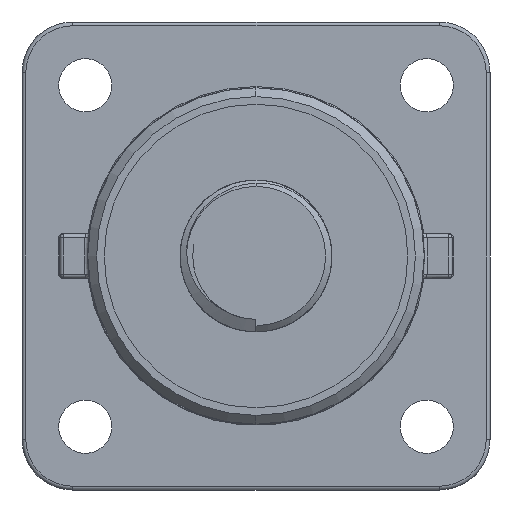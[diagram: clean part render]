
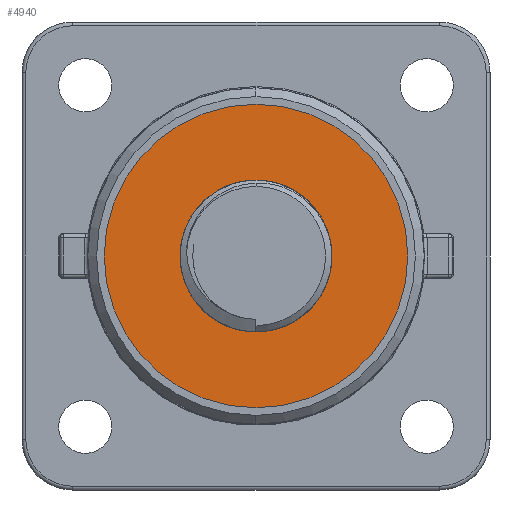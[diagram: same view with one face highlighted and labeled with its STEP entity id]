
A CAD part, front view. The second image highlights one B-rep face of the part: STEP entity #4940.
In plain terms, the highlighted planar face has unit normal (0, -1, 0).
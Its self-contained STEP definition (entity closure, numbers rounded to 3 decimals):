
#456 = CIRCLE ( 'NONE', #11264, 5. ) ;
#1007 = FACE_OUTER_BOUND ( 'NONE', #6588, .T. ) ;
#1212 = EDGE_LOOP ( 'NONE', ( #8308, #7183 ) ) ;
#1624 = PLANE ( 'NONE',  #5364 ) ;
#2055 = DIRECTION ( 'NONE',  ( 0., 1., 0. ) ) ;
#2452 = VERTEX_POINT ( 'NONE', #2687 ) ;
#2687 = CARTESIAN_POINT ( 'NONE',  ( 0., -19.7, -5. ) ) ;
#2700 = AXIS2_PLACEMENT_3D ( 'NONE', #3824, #9401, #7151 ) ;
#2829 = VERTEX_POINT ( 'NONE', #7458 ) ;
#2915 = EDGE_CURVE ( 'NONE', #2452, #11375, #3623, .T. ) ;
#3224 = CARTESIAN_POINT ( 'NONE',  ( 0., -19.7, 0. ) ) ;
#3562 = CARTESIAN_POINT ( 'NONE',  ( 0., -19.7, 5. ) ) ;
#3623 = CIRCLE ( 'NONE', #8789, 5. ) ;
#3824 = CARTESIAN_POINT ( 'NONE',  ( 0., -19.7, 0. ) ) ;
#3862 = EDGE_CURVE ( 'NONE', #2829, #13303, #12931, .T. ) ;
#4336 = DIRECTION ( 'NONE',  ( 0., 0., -1. ) ) ;
#4940 = ADVANCED_FACE ( 'NONE', ( #1007, #12548 ), #1624, .T. ) ;
#5364 = AXIS2_PLACEMENT_3D ( 'NONE', #10383, #6616, #7655 ) ;
#6367 = DIRECTION ( 'NONE',  ( 0., 1., 0. ) ) ;
#6414 = CARTESIAN_POINT ( 'NONE',  ( 0., -19.7, 12. ) ) ;
#6588 = EDGE_LOOP ( 'NONE', ( #14249, #8268 ) ) ;
#6616 = DIRECTION ( 'NONE',  ( 0., -1., 0. ) ) ;
#7151 = DIRECTION ( 'NONE',  ( 0., 0., -1. ) ) ;
#7183 = ORIENTED_EDGE ( 'NONE', *, *, #2915, .T. ) ;
#7458 = CARTESIAN_POINT ( 'NONE',  ( 0., -19.7, -12. ) ) ;
#7655 = DIRECTION ( 'NONE',  ( 0., 0., -1. ) ) ;
#8268 = ORIENTED_EDGE ( 'NONE', *, *, #3862, .T. ) ;
#8308 = ORIENTED_EDGE ( 'NONE', *, *, #11650, .T. ) ;
#8744 = CARTESIAN_POINT ( 'NONE',  ( 0., -19.7, 0. ) ) ;
#8789 = AXIS2_PLACEMENT_3D ( 'NONE', #14516, #6367, #11071 ) ;
#9401 = DIRECTION ( 'NONE',  ( 0., -1., 0. ) ) ;
#9447 = AXIS2_PLACEMENT_3D ( 'NONE', #3224, #11032, #4336 ) ;
#9802 = EDGE_CURVE ( 'NONE', #13303, #2829, #11756, .T. ) ;
#9871 = DIRECTION ( 'NONE',  ( 0., 0., 1. ) ) ;
#10383 = CARTESIAN_POINT ( 'NONE',  ( 0., -19.7, 0. ) ) ;
#11032 = DIRECTION ( 'NONE',  ( 0., -1., 0. ) ) ;
#11071 = DIRECTION ( 'NONE',  ( 0., 0., 1. ) ) ;
#11264 = AXIS2_PLACEMENT_3D ( 'NONE', #8744, #2055, #9871 ) ;
#11375 = VERTEX_POINT ( 'NONE', #3562 ) ;
#11650 = EDGE_CURVE ( 'NONE', #11375, #2452, #456, .T. ) ;
#11756 = CIRCLE ( 'NONE', #9447, 12. ) ;
#12548 = FACE_BOUND ( 'NONE', #1212, .T. ) ;
#12931 = CIRCLE ( 'NONE', #2700, 12. ) ;
#13303 = VERTEX_POINT ( 'NONE', #6414 ) ;
#14249 = ORIENTED_EDGE ( 'NONE', *, *, #9802, .T. ) ;
#14516 = CARTESIAN_POINT ( 'NONE',  ( 0., -19.7, 0. ) ) ;
